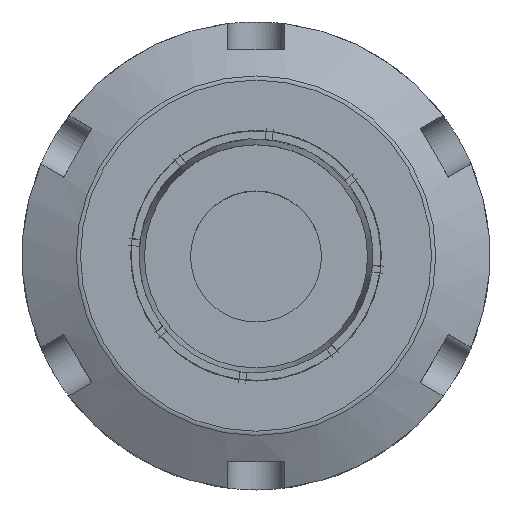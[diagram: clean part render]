
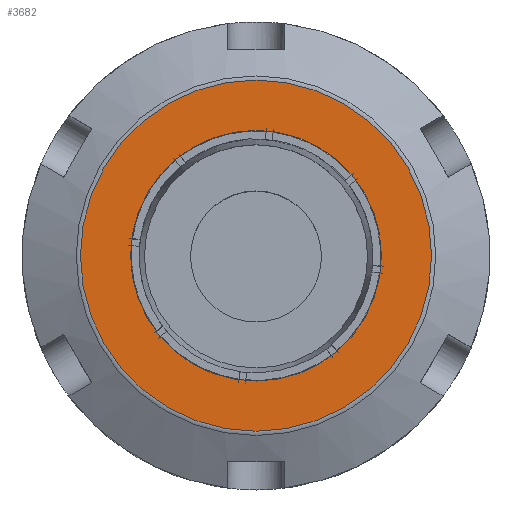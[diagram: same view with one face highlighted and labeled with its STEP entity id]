
A CAD part, top view. The second image highlights one B-rep face of the part: STEP entity #3682.
In plain terms, the highlighted planar face has unit normal (0, 0, 1) as drawn and (0, 1, 0) by its records, which use the part's own axes.
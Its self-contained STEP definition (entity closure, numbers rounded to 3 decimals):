
#153=FACE_BOUND('',#637,.T.);
#254=PLANE('',#4063);
#422=FACE_OUTER_BOUND('',#636,.T.);
#636=EDGE_LOOP('',(#2782));
#637=EDGE_LOOP('',(#2783));
#1367=CIRCLE('',#4062,18.764);
#1368=CIRCLE('',#4064,13.4);
#1616=VERTEX_POINT('',#6007);
#1617=VERTEX_POINT('',#6011);
#2049=EDGE_CURVE('',#1616,#1616,#1367,.T.);
#2050=EDGE_CURVE('',#1617,#1617,#1368,.T.);
#2782=ORIENTED_EDGE('',*,*,#2049,.F.);
#2783=ORIENTED_EDGE('',*,*,#2050,.T.);
#3682=ADVANCED_FACE('',(#422,#153),#254,.T.);
#4062=AXIS2_PLACEMENT_3D('',#6009,#4665,#4666);
#4063=AXIS2_PLACEMENT_3D('',#6010,#4667,#4668);
#4064=AXIS2_PLACEMENT_3D('',#6012,#4669,#4670);
#4665=DIRECTION('center_axis',(0.,-1.,0.));
#4666=DIRECTION('ref_axis',(-1.,0.,0.));
#4667=DIRECTION('center_axis',(0.,1.,0.));
#4668=DIRECTION('ref_axis',(0.,0.,1.));
#4669=DIRECTION('center_axis',(0.,-1.,0.));
#4670=DIRECTION('ref_axis',(1.,0.,0.));
#6007=CARTESIAN_POINT('',(0.,24.,18.764));
#6009=CARTESIAN_POINT('Origin',(0.,24.,0.));
#6010=CARTESIAN_POINT('Origin',(19.,24.,0.));
#6011=CARTESIAN_POINT('',(-13.4,24.,0.));
#6012=CARTESIAN_POINT('Origin',(0.,24.,0.));
